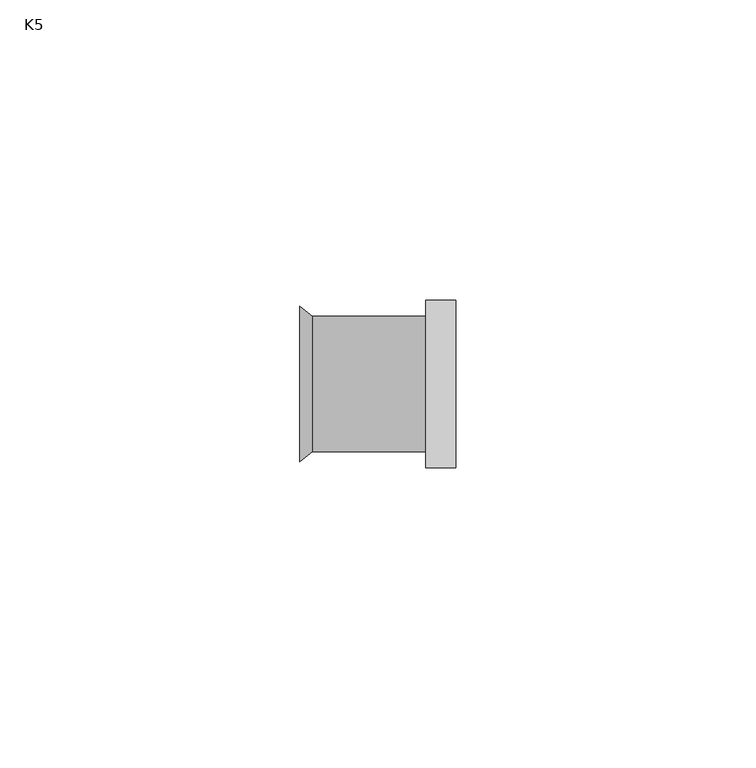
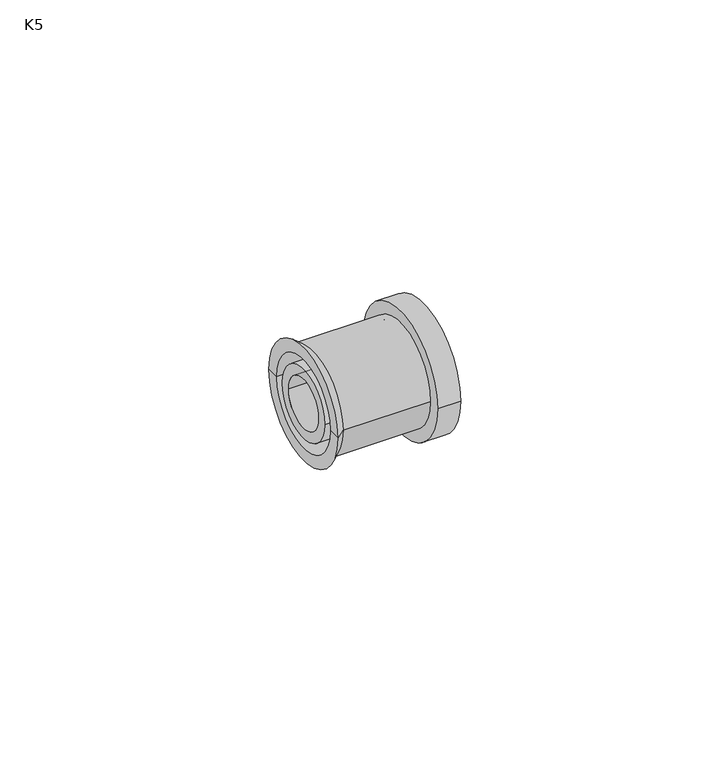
"""IFC4 building model written with IfcOpenShell, lengths in millimetres: pipe fitting geometry, SocketKMForTransition : K5."""

from ifc_helpers import new_model, si_unit, point, frame, origin, origin_2d, place, context, project, spatial, polyline, circle_curve, trimmed, segment, composite_curve, outline, extrude, source, transform, mapped, element, save
from ifc_brep_helpers import plane_surface, cylinder_surface, revolved_surface, advanced_brep


def k5_c3ce4855(model_context):
    return source(origin(), model_context, "Body", "SolidModel", [
        advanced_brep(
        [(-26.0, -12.975, 0.0), (-26.0, 12.975, 0.0), (-23.9463094, 11.3, 0.0), (-23.9463094, -11.3, 0.0), (-26.0, -10.2, 0.0), (-26.0, 10.2, 0.0), (-5.0, -10.2, 0.0), (-5.0, 10.2, 0.0), (-5.0, -11.3, 0.0), (-5.0, 11.3, 0.0)],
        [
            (0, 1, circle_curve(frame((-26.0, 0.0, 0.0), z_axis=(1.0, 0.0, 0.0), x_axis=(0.0, 1.0, 0.0)), 12.975)),
            (1, 2),
            (2, 3, circle_curve(frame((-23.9463094, 0.0, 0.0), z_axis=(-1.0, 0.0, 0.0), x_axis=(0.0, 1.0, 0.0)), 11.3)),
            (3, 0),
            (1, 0, circle_curve(frame((-26.0, 0.0, 0.0), z_axis=(1.0, 0.0, 0.0), x_axis=(0.0, 1.0, 0.0)), 12.975)),
            (3, 2, circle_curve(frame((-23.9463094, 0.0, 0.0), z_axis=(-1.0, 0.0, 0.0), x_axis=(0.0, 1.0, 0.0)), 11.3)),
            (4, 5, circle_curve(frame((-26.0, 0.0, 0.0), z_axis=(1.0, 0.0, 0.0), x_axis=(0.0, 1.0, 0.0)), 10.2)),
            (5, 1),
            (0, 4),
            (5, 4, circle_curve(frame((-26.0, 0.0, 0.0), z_axis=(1.0, 0.0, 0.0), x_axis=(0.0, 1.0, 0.0)), 10.2)),
            (6, 7, circle_curve(frame((-5.0, 0.0, 0.0), z_axis=(1.0, 0.0, 0.0), x_axis=(0.0, 1.0, 0.0)), 10.2)),
            (7, 5),
            (4, 6),
            (7, 6, circle_curve(frame((-5.0, 0.0, 0.0), z_axis=(1.0, 0.0, 0.0), x_axis=(0.0, 1.0, 0.0)), 10.2)),
            (8, 9, circle_curve(frame((-5.0, 0.0, 0.0), z_axis=(1.0, 0.0, 0.0), x_axis=(0.0, 1.0, 0.0)), 11.3)),
            (9, 7),
            (6, 8),
            (9, 8, circle_curve(frame((-5.0, 0.0, 0.0), z_axis=(1.0, 0.0, 0.0), x_axis=(0.0, 1.0, 0.0)), 11.3)),
            (2, 9),
            (8, 3),
        ],
        [
            revolved_surface(polyline([(-23.9463094, 11.3, 0.0), (-26.0, 12.975, 0.0)]), (2000.0, 0.0, 0.0), (-1.0, 0.0, 0.0)),
            plane_surface(frame((-26.0, 0.0, 0.0), z_axis=(-1.0, 0.0, 0.0), x_axis=(0.0, 1.0, 0.0))),
            revolved_surface(polyline([(-26.0, 10.2, 0.0), (-5.0, 10.2, 0.0)]), (2000.0, 0.0, 0.0), (-1.0, 0.0, 0.0)),
            plane_surface(frame((-5.0, 0.0, 0.0), z_axis=(1.0, 0.0, 0.0), x_axis=(0.0, 1.0, 0.0))),
            cylinder_surface(frame((2000.0, 0.0, 0.0), z_axis=(-1.0, 0.0, 0.0), x_axis=(0.0, 1.0, 0.0)), 11.3),
        ],
        [
            (0, [[1, 2, 3, 4]]),
            (0, [[5, -4, 6, -2]]),
            (1, [[7, 8, -1, 9]]),
            (1, [[10, -9, -5, -8]]),
            (2, [[11, 12, -7, 13]]),
            (2, [[14, -13, -10, -12]]),
            (3, [[15, 16, -11, 17]]),
            (3, [[18, -17, -14, -16]]),
            (4, [[-3, 19, -15, 20]]),
            (4, [[-6, -20, -18, -19]]),
        ],
    ),
        extrude(outline(composite_curve([segment(trimmed(circle_curve(origin_2d(), 14.0), [point((-14.0, 0.0))], [point((14.0, 0.0))], False, "CARTESIAN"), True, "CONTINUOUS"), segment(trimmed(circle_curve(origin_2d(), 14.0), [point((14.0, 0.0))], [point((-14.0, 0.0))], False, "CARTESIAN"), True, "CONTINUOUS")], self_intersect=False)), frame((-5.0, 0.0, 0.0), z_axis=(1.0, 0.0, 0.0), x_axis=(0.0, 1.0, 0.0)), (0.0, 0.0, 1.0), 5.0),
        extrude(outline(composite_curve([segment(trimmed(circle_curve(origin_2d(), 7.9), [point((-7.9, 0.0))], [point((7.9, 0.0))], False, "CARTESIAN"), True, "CONTINUOUS"), segment(trimmed(circle_curve(origin_2d(), 7.9), [point((7.9, 0.0))], [point((-7.9, 0.0))], False, "CARTESIAN"), True, "CONTINUOUS")], self_intersect=False), holes=[composite_curve([segment(trimmed(circle_curve(origin_2d(), 5.6), [point((-5.6, 0.0))], [point((5.6, 0.0))], True, "CARTESIAN"), True, "CONTINUOUS"), segment(trimmed(circle_curve(origin_2d(), 5.6), [point((5.6, 0.0))], [point((-5.6, 0.0))], True, "CARTESIAN"), True, "CONTINUOUS")], self_intersect=False)]), frame((-26.0, 0.0, 0.0), z_axis=(1.0, 0.0, 0.0), x_axis=(0.0, 1.0, 0.0)), (0.0, 0.0, 1.0), 26.0),
    ])


if __name__ == "__main__":
    model = new_model("IFC4")
    model_context = context("Model", 3, world=origin())
    ifc_project = project(units=[si_unit("LENGTHUNIT", "METRE", prefix="MILLI")], contexts=[model_context])
    site = spatial("IfcSite", under=ifc_project)
    building = spatial("IfcBuilding", under=site)
    placement = place(None, origin())
    k5_shape = k5_c3ce4855(model_context)
    element("IfcPipeFitting", 1, ObjectType="SocketKMForTransition : K5", at=placement, inside=building, context=model_context, shape_type="MappedRepresentation", body=[
        mapped(k5_shape, transform((0.0, 0.0, 0.0), x_axis=(1.0, 0.0, 0.0), y_axis=(0.0, 1.0, 0.0), z_axis=(0.0, 0.0, 1.0))),
    ])
    save(model, "model.ifc")
